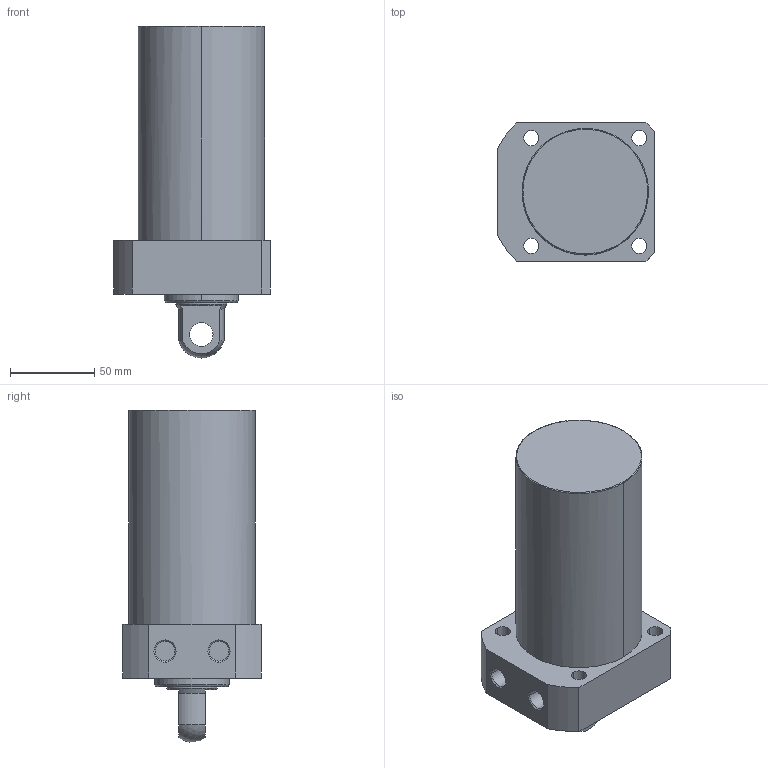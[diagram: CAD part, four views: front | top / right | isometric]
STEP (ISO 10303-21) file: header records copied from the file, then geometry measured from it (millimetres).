
FILE_DESCRIPTION((' '),'2;1');
FILE_NAME( 'TLLR-075CP-090.STEP.stp', '2025-10-24T16:35:15', (' '), ('--- Datakit www.datakit.com---'), ' Datakit CrossCadWare V2024.1 Dec 21 2023', 'Mastercam 2025', ' ');
FILE_SCHEMA(('AUTOMOTIVE_DESIGN { 1 0 10303 214 1 1 1 1 }'));
Length unit declared in the file: millimetre
Products named in the file (1): TLLR-075CP-090
Bounding box: 93 x 82 x 196.9 mm (x, y, z)
Volume: 804518.9 mm3; surface area: 63162.2 mm2
Topology: 1 solids, 1 shells, 57 faces, 164 edges, 116 vertices
Faces by surface type: cylinder 28, plane 18, cone 8, torus 2, sphere 1
Entity records: 2006 total; most frequent: DIRECTION 378, CARTESIAN_POINT 350, ORIENTED_EDGE 328, EDGE_CURVE 164, AXIS2_PLACEMENT_3D 160, VERTEX_POINT 116, CIRCLE 102, EDGE_LOOP 74
